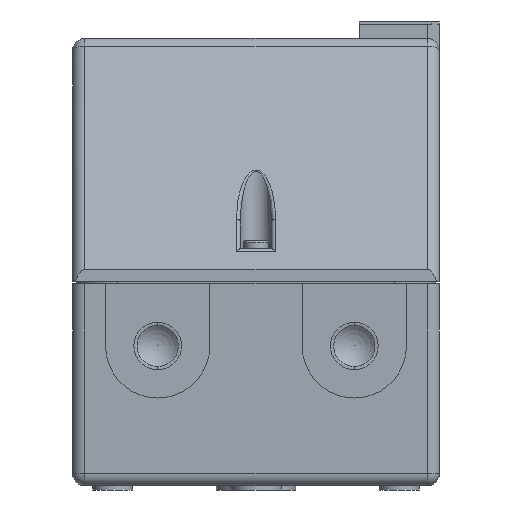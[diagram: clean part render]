
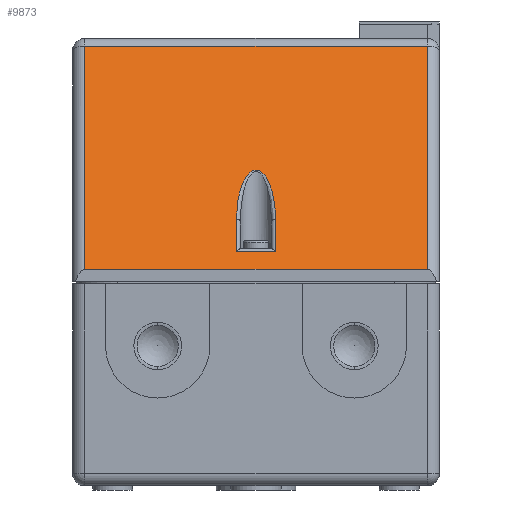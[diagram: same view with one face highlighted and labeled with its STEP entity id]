
A CAD part, front view. The second image highlights one B-rep face of the part: STEP entity #9873.
In plain terms, the highlighted planar face has unit normal (0, -0.929, 0.369).
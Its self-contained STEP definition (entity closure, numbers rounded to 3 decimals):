
#1046 = PLANE ( 'NONE',  #1530 ) ;
#1047 = CARTESIAN_POINT ( 'NONE',  ( 104.758, -89.5, 52.5 ) ) ;
#1048 = DIRECTION ( 'NONE',  ( 0., 0.929, -0.369 ) ) ;
#1049 = DIRECTION ( 'NONE',  ( 0., 0.369, 0.929 ) ) ;
#1523 = FACE_OUTER_BOUND ( 'NONE', #10863, .T. ) ;
#1525 = FACE_BOUND ( 'NONE', #10862, .T. ) ;
#1530 = AXIS2_PLACEMENT_3D ( 'NONE', #1047, #1048, #1049 ) ;
#4944 = CARTESIAN_POINT ( 'NONE',  ( 41.5, -89.5, 52.5 ) ) ;
#4945 = CARTESIAN_POINT ( 'NONE',  ( -41.5, -89.5, 52.5 ) ) ;
#4954 = CARTESIAN_POINT ( 'NONE',  ( 4.75, -87.764, 56.869 ) ) ;
#4955 = CARTESIAN_POINT ( 'NONE',  ( -4.75, -87.764, 56.869 ) ) ;
#4956 = CARTESIAN_POINT ( 'NONE',  ( -4.75, -84.679, 64.633 ) ) ;
#4957 = CARTESIAN_POINT ( 'NONE',  ( 4.75, -84.679, 64.633 ) ) ;
#4958 = CARTESIAN_POINT ( 'NONE',  ( 41.5, -68.002, 106.608 ) ) ;
#4959 = CARTESIAN_POINT ( 'NONE',  ( -41.5, -68.002, 106.608 ) ) ;
#6805 = VECTOR ( 'NONE', #12507, 1000. ) ;
#6806 = VECTOR ( 'NONE', #12518, 1000. ) ;
#6807 = VECTOR ( 'NONE', #12510, 1000. ) ;
#6808 = VECTOR ( 'NONE', #12521, 1000. ) ;
#6820 = VECTOR ( 'NONE', #12504, 1000. ) ;
#6822 = VECTOR ( 'NONE', #12498, 1000. ) ;
#6955 = EDGE_CURVE ( 'NONE', #10417, #10431, #12496, .T. ) ;
#6957 = EDGE_CURVE ( 'NONE', #10431, #10432, #12502, .T. ) ;
#6958 = EDGE_CURVE ( 'NONE', #10427, #10428, #12505, .T. ) ;
#6959 = EDGE_CURVE ( 'NONE', #10428, #10429, #12508, .T. ) ;
#6960 = EDGE_CURVE ( 'NONE', #10429, #10430, #15387, .T. ) ;
#6961 = EDGE_CURVE ( 'NONE', #10432, #10418, #12516, .T. ) ;
#6962 = EDGE_CURVE ( 'NONE', #10430, #10427, #12519, .T. ) ;
#9502 = EDGE_CURVE ( 'NONE', #10417, #10418, #16293, .T. ) ;
#9873 = ADVANCED_FACE ( 'NONE', ( #1525, #1523 ), #1046, .F. ) ;
#10417 = VERTEX_POINT ( 'NONE', #4944 ) ;
#10418 = VERTEX_POINT ( 'NONE', #4945 ) ;
#10427 = VERTEX_POINT ( 'NONE', #4954 ) ;
#10428 = VERTEX_POINT ( 'NONE', #4955 ) ;
#10429 = VERTEX_POINT ( 'NONE', #4956 ) ;
#10430 = VERTEX_POINT ( 'NONE', #4957 ) ;
#10431 = VERTEX_POINT ( 'NONE', #4958 ) ;
#10432 = VERTEX_POINT ( 'NONE', #4959 ) ;
#10862 = EDGE_LOOP ( 'NONE', ( #15974, #16004, #16002, #16006 ) ) ;
#10863 = EDGE_LOOP ( 'NONE', ( #15998, #15996, #16000, #15992 ) ) ;
#12496 = LINE ( 'NONE', #12497, #6822 ) ;
#12497 = CARTESIAN_POINT ( 'NONE',  ( 41.5, -89.5, 52.5 ) ) ;
#12498 = DIRECTION ( 'NONE',  ( 0., 0.369, 0.929 ) ) ;
#12502 = LINE ( 'NONE', #12503, #6820 ) ;
#12503 = CARTESIAN_POINT ( 'NONE',  ( -44.5, -68.002, 106.608 ) ) ;
#12504 = DIRECTION ( 'NONE',  ( -1., 0., 0. ) ) ;
#12505 = LINE ( 'NONE', #12506, #6805 ) ;
#12506 = CARTESIAN_POINT ( 'NONE',  ( 104.758, -87.764, 56.869 ) ) ;
#12507 = DIRECTION ( 'NONE',  ( -1., 0., 0. ) ) ;
#12508 = LINE ( 'NONE', #12509, #6807 ) ;
#12509 = CARTESIAN_POINT ( 'NONE',  ( -4.75, -89.5, 52.5 ) ) ;
#12510 = DIRECTION ( 'NONE',  ( 0., 0.369, 0.929 ) ) ;
#12511 = CARTESIAN_POINT ( 'NONE',  ( -4.75, -84.679, 64.633 ) ) ;
#12512 = CARTESIAN_POINT ( 'NONE',  ( -4.75, -75.179, 88.543 ) ) ;
#12513 = CARTESIAN_POINT ( 'NONE',  ( 4.75, -75.179, 88.543 ) ) ;
#12514 = CARTESIAN_POINT ( 'NONE',  ( 4.75, -84.679, 64.633 ) ) ;
#12516 = LINE ( 'NONE', #12517, #6806 ) ;
#12517 = CARTESIAN_POINT ( 'NONE',  ( -41.5, -89.5, 52.5 ) ) ;
#12518 = DIRECTION ( 'NONE',  ( 0., -0.369, -0.929 ) ) ;
#12519 = LINE ( 'NONE', #12520, #6808 ) ;
#12520 = CARTESIAN_POINT ( 'NONE',  ( 4.75, -89.5, 52.5 ) ) ;
#12521 = DIRECTION ( 'NONE',  ( 0., -0.369, -0.929 ) ) ;
#15387 =( BOUNDED_CURVE ( )  B_SPLINE_CURVE ( 3, ( #12511, #12512, #12513, #12514 ),
 .UNSPECIFIED., .F., .F. ) 
 B_SPLINE_CURVE_WITH_KNOTS ( ( 4, 4 ),
 ( 1.571, 4.712 ),
 .UNSPECIFIED. ) 
 CURVE ( )  GEOMETRIC_REPRESENTATION_ITEM ( )  RATIONAL_B_SPLINE_CURVE ( ( 1., 0.333, 0.333, 1. ) ) 
 REPRESENTATION_ITEM ( '' )  );
#15623 = VECTOR ( 'NONE', #16297, 1000. ) ;
#15974 = ORIENTED_EDGE ( 'NONE', *, *, #6958, .T. ) ;
#15992 = ORIENTED_EDGE ( 'NONE', *, *, #6955, .T. ) ;
#15996 = ORIENTED_EDGE ( 'NONE', *, *, #6961, .T. ) ;
#15998 = ORIENTED_EDGE ( 'NONE', *, *, #6957, .T. ) ;
#16000 = ORIENTED_EDGE ( 'NONE', *, *, #9502, .F. ) ;
#16002 = ORIENTED_EDGE ( 'NONE', *, *, #6960, .T. ) ;
#16004 = ORIENTED_EDGE ( 'NONE', *, *, #6959, .T. ) ;
#16006 = ORIENTED_EDGE ( 'NONE', *, *, #6962, .T. ) ;
#16293 = LINE ( 'NONE', #16295, #15623 ) ;
#16295 = CARTESIAN_POINT ( 'NONE',  ( 104.758, -89.5, 52.5 ) ) ;
#16297 = DIRECTION ( 'NONE',  ( -1., 0., 0. ) ) ;
